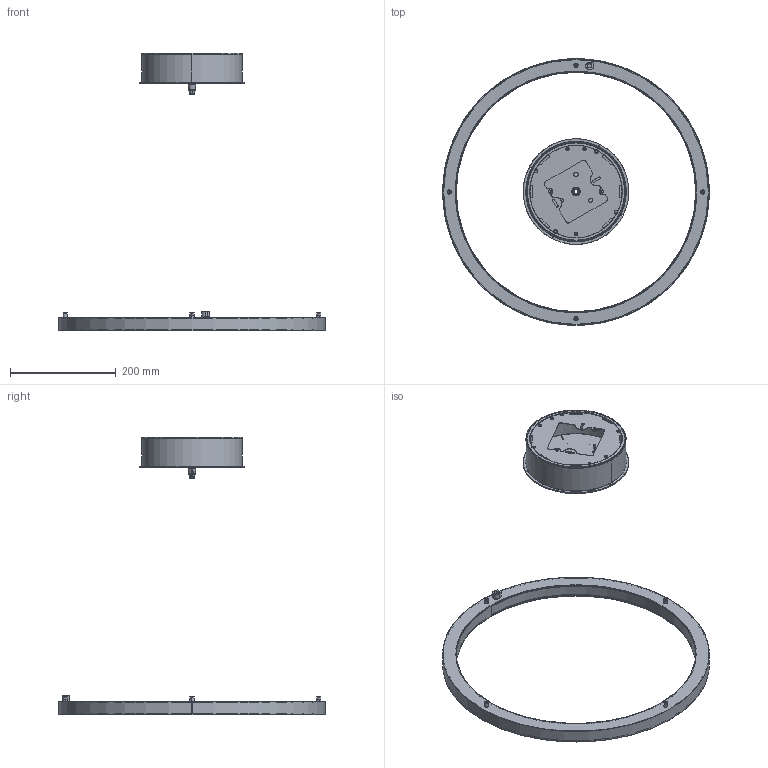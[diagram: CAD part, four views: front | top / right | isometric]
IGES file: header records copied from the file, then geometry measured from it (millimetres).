
Start section: SolidWorks IGES file using analytic representation for surfaces
Global section: file name: W:\FILE_leo_generati smartwork\1-4-20\circus_500\circus_500.IGS; native system: SolidWorks 2019; preprocessor: SolidWorks 2019; author: leonardo.cogo; date: 200401.094904; units: millimetre
Bounding box: 505 x 505 x 525 mm (x, y, z)
Surface area: 513247.5 mm2 (no closed solid volume)
Topology: 0 solids, 0 shells, 465 faces, 8378 edges, 8378 vertices
Faces by surface type: revolution 291, bspline 174
